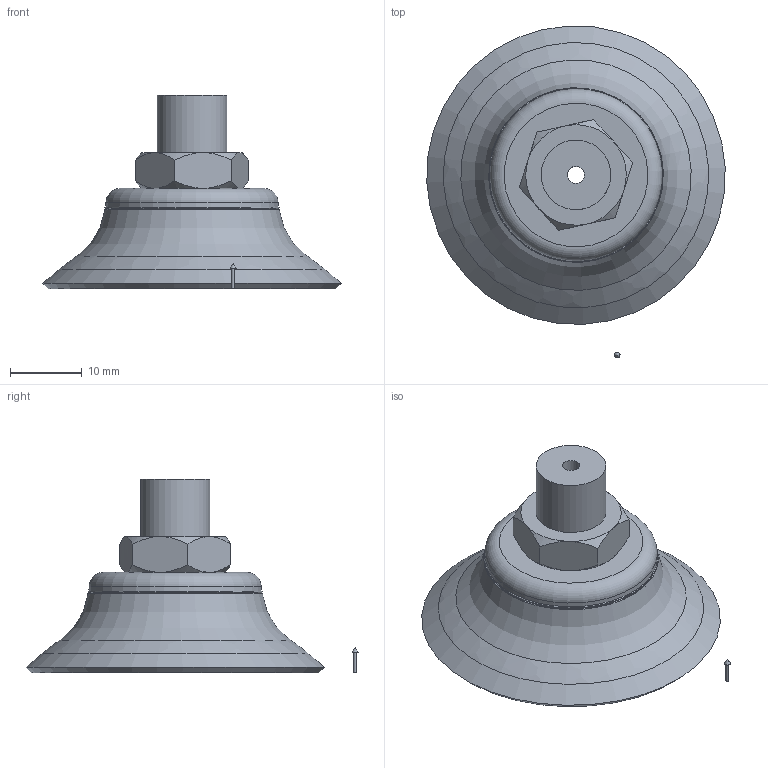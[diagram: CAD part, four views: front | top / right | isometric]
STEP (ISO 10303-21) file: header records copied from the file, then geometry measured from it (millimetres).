
FILE_DESCRIPTION(('STEP AP214'),'1');
FILE_NAME('KIT.08.28.D40.stp','2019-05-27T10:23:30',(' '),(' '),'Spatial InterOp 3D',' ',' ');
FILE_SCHEMA(('AUTOMOTIVE_DESIGN { 1 0 10303 214 1 1 1 1 }'));
Length unit declared in the file: millimetre
Products named in the file (5): KIT.08.28.D40; CA.08.09.017; CA.08.28.010
Assembly tree (4 placements, depth 3):
  KIT.08.28.D40
    CA.08.09.017
    (unnamed)
      CA.08.28.010
      CA.08.28.010
Bounding box: 41.55 x 46.24 x 27 mm (x, y, z)
Volume: 7973.5 mm3; surface area: 4901.5 mm2
Topology: 3 solids, 3 shells, 47 faces, 95 edges, 57 vertices
Faces by surface type: cone 17, plane 15, cylinder 7, torus 6, bspline 2
Full cylindrical faces by diameter (mm): 0.4 x1, 2.4 x1, 6 x1, 6.5 x1, 9.7 x1, 10 x1, 11 x1
Entity records: 1838 total; most frequent: CARTESIAN_POINT 504, DIRECTION 186, ORIENTED_EDGE 138, AXIS2_PLACEMENT_3D 90, EDGE_LOOP 74, EDGE_CURVE 69, FACE_OUTER_BOUND 62, VERTEX_POINT 52
